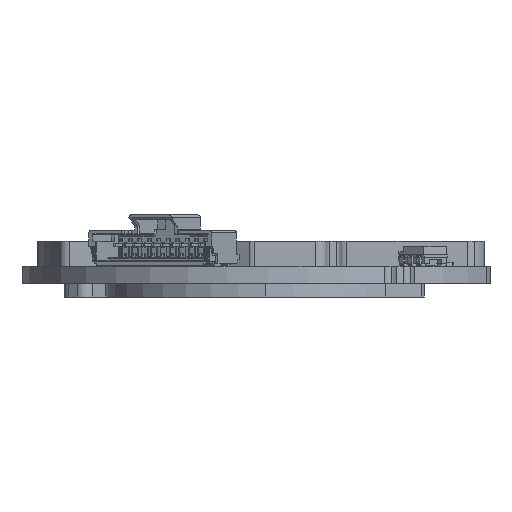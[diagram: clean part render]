
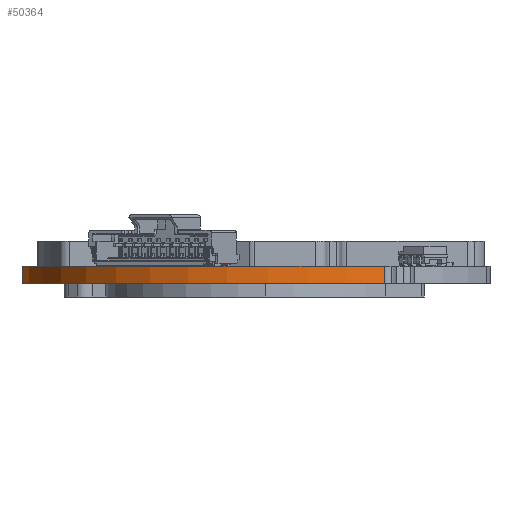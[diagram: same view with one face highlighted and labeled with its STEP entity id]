
A CAD part, left-side view. The second image highlights one B-rep face of the part: STEP entity #50364.
In plain terms, the highlighted cylindrical face has radius 22.4 mm (diameter 44.8 mm), a partial arc.
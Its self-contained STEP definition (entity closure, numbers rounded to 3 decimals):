
#8678 = CARTESIAN_POINT ( 'NONE',  ( 19.734, 17.904, 0. ) ) ;
#9164 = DIRECTION ( 'NONE',  ( 0.42, -0.908, 0. ) ) ;
#13465 = EDGE_LOOP ( 'NONE', ( #32446, #73845, #36188, #63493 ) ) ;
#16660 = EDGE_CURVE ( 'NONE', #92774, #29281, #43092, .T. ) ;
#17453 = DIRECTION ( 'NONE',  ( 0.42, -0.908, 0. ) ) ;
#17950 = VECTOR ( 'NONE', #24073, 1000. ) ;
#24073 = DIRECTION ( 'NONE',  ( 0., 0., 1. ) ) ;
#24129 = EDGE_CURVE ( 'NONE', #90650, #76871, #49098, .T. ) ;
#26155 = VECTOR ( 'NONE', #50385, 1000. ) ;
#27437 = CARTESIAN_POINT ( 'NONE',  ( 19.734, 17.904, -1.59 ) ) ;
#29281 = VERTEX_POINT ( 'NONE', #55149 ) ;
#29841 = EDGE_CURVE ( 'NONE', #76871, #29281, #80633, .T. ) ;
#30370 = LINE ( 'NONE', #36083, #26155 ) ;
#32339 = AXIS2_PLACEMENT_3D ( 'NONE', #27437, #57328, #41246 ) ;
#32446 = ORIENTED_EDGE ( 'NONE', *, *, #24129, .T. ) ;
#36083 = CARTESIAN_POINT ( 'NONE',  ( 18.063, 40.242, -1.59 ) ) ;
#36188 = ORIENTED_EDGE ( 'NONE', *, *, #16660, .F. ) ;
#41246 = DIRECTION ( 'NONE',  ( 0.42, -0.908, 0. ) ) ;
#43092 = CIRCLE ( 'NONE', #82600, 22.4 ) ;
#49098 = CIRCLE ( 'NONE', #32339, 22.4 ) ;
#50364 = ADVANCED_FACE ( 'NONE', ( #68302 ), #53611, .T. ) ;
#50385 = DIRECTION ( 'NONE',  ( 0., 0., 1. ) ) ;
#51226 = CARTESIAN_POINT ( 'NONE',  ( 0.171, 6.993, -1.59 ) ) ;
#52211 = DIRECTION ( 'NONE',  ( 0., 0., -1. ) ) ;
#53611 = CYLINDRICAL_SURFACE ( 'NONE', #78304, 22.4 ) ;
#55149 = CARTESIAN_POINT ( 'NONE',  ( 0.171, 6.993, 0. ) ) ;
#57328 = DIRECTION ( 'NONE',  ( 0., 0., 1. ) ) ;
#63493 = ORIENTED_EDGE ( 'NONE', *, *, #86344, .F. ) ;
#66709 = DIRECTION ( 'NONE',  ( 0., 0., 1. ) ) ;
#68302 = FACE_OUTER_BOUND ( 'NONE', #13465, .T. ) ;
#73845 = ORIENTED_EDGE ( 'NONE', *, *, #29841, .T. ) ;
#76871 = VERTEX_POINT ( 'NONE', #79020 ) ;
#78304 = AXIS2_PLACEMENT_3D ( 'NONE', #81611, #52211, #17453 ) ;
#79020 = CARTESIAN_POINT ( 'NONE',  ( 0.171, 6.993, -1.59 ) ) ;
#80633 = LINE ( 'NONE', #51226, #17950 ) ;
#81361 = CARTESIAN_POINT ( 'NONE',  ( 18.063, 40.242, 0. ) ) ;
#81611 = CARTESIAN_POINT ( 'NONE',  ( 19.734, 17.904, -1.59 ) ) ;
#82600 = AXIS2_PLACEMENT_3D ( 'NONE', #8678, #66709, #9164 ) ;
#86344 = EDGE_CURVE ( 'NONE', #90650, #92774, #30370, .T. ) ;
#88417 = CARTESIAN_POINT ( 'NONE',  ( 18.063, 40.242, -1.59 ) ) ;
#90650 = VERTEX_POINT ( 'NONE', #88417 ) ;
#92774 = VERTEX_POINT ( 'NONE', #81361 ) ;
